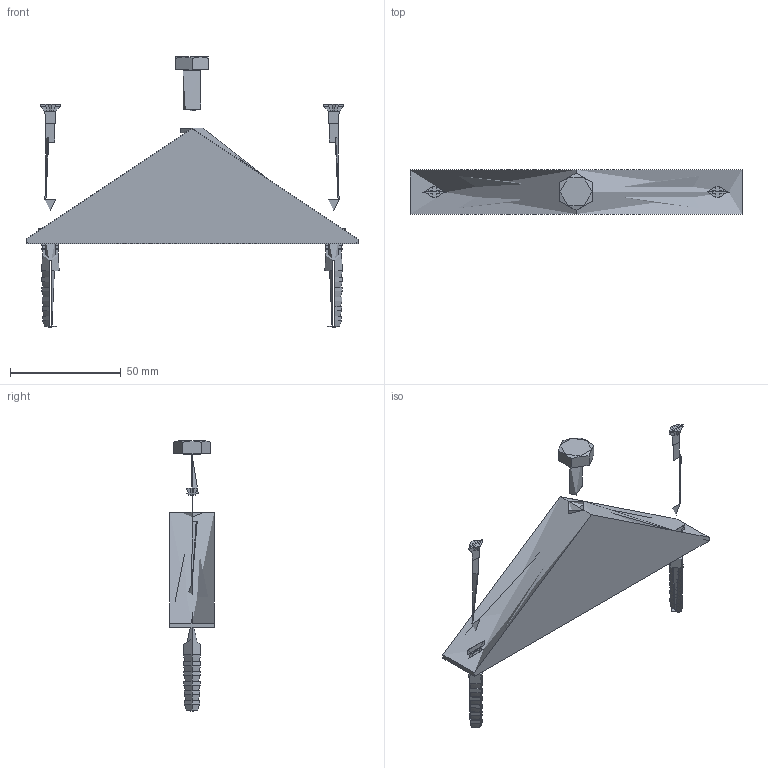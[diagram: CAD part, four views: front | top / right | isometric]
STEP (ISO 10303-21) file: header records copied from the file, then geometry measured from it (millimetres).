
FILE_DESCRIPTION(/* description */ (''),/* implementation_level */ '2;1');
FILE_NAME(/* name */ 'DZM14',/* time_stamp */ '2012-11-29T22:49:01+01:00',/* author */ (''),/* organization */ (''),/* preprocessor_version */ 'ST-DEVELOPER v10',/* originating_system */ '',/* authorisation */ '');
FILE_SCHEMA (('AUTOMOTIVE_DESIGN_CC2'));
Length unit declared in the file: millimetre
Products named in the file (1): 1
Bounding box: 150 x 20 x 122.16 mm (x, y, z)
Surface area: 16637.1 mm2 (no closed solid volume)
Topology: 0 solids, 236 shells, 293 faces, 1367 edges, 1238 vertices
Faces by surface type: bspline 253, plane 40
Entity records: 27503 total; most frequent: CARTESIAN_POINT 18935, ORIENTED_EDGE 1409, EDGE_CURVE 1295, VERTEX_POINT 1184, B_SPLINE_CURVE_WITH_KNOTS 849, EDGE_LOOP 307, COLOUR_RGB 302, PRESENTATION_STYLE_ASSIGNMENT 302
